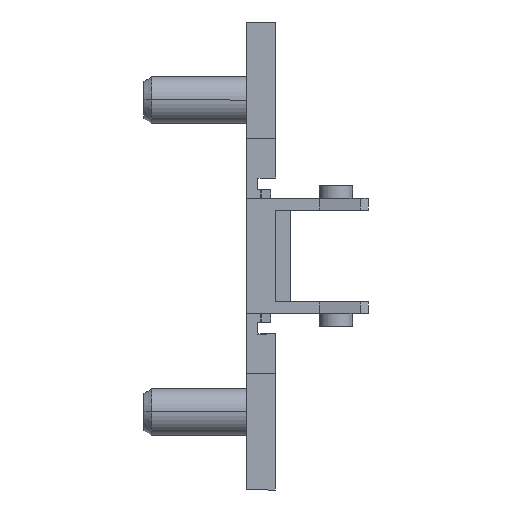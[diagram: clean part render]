
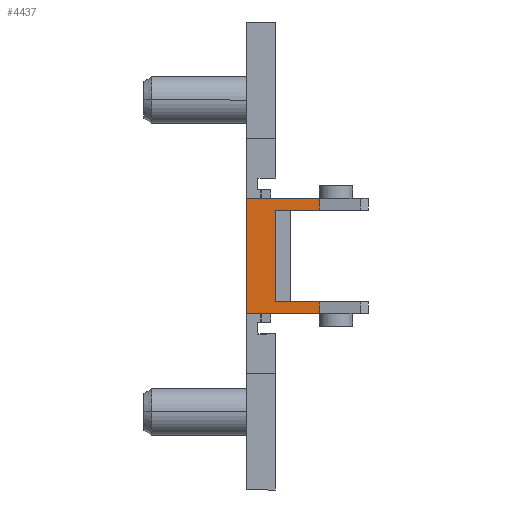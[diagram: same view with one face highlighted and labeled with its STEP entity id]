
A CAD part, front view. The second image highlights one B-rep face of the part: STEP entity #4437.
In plain terms, the highlighted planar face has unit normal (0, -1, 0).
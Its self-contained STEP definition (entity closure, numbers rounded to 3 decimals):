
#263 = CARTESIAN_POINT ( 'NONE',  ( 10.5, -25.55, 5.9 ) ) ;
#305 = CARTESIAN_POINT ( 'NONE',  ( 10.5, -25.55, -5.9 ) ) ;
#335 = DIRECTION ( 'NONE',  ( -1., 0., 0. ) ) ;
#419 = DIRECTION ( 'NONE',  ( 0., 0., -1. ) ) ;
#446 = EDGE_CURVE ( 'NONE', #3104, #3760, #1832, .T. ) ;
#595 = EDGE_CURVE ( 'NONE', #3104, #3034, #2641, .T. ) ;
#677 = CARTESIAN_POINT ( 'NONE',  ( 5.523, -25.55, 4.7 ) ) ;
#770 = LINE ( 'NONE', #4125, #3010 ) ;
#886 = VECTOR ( 'NONE', #419, 1000. ) ;
#911 = ORIENTED_EDGE ( 'NONE', *, *, #2178, .F. ) ;
#946 = LINE ( 'NONE', #2022, #3778 ) ;
#1057 = DIRECTION ( 'NONE',  ( -1., 0., 0. ) ) ;
#1087 = PLANE ( 'NONE',  #3208 ) ;
#1144 = LINE ( 'NONE', #1777, #2875 ) ;
#1147 = CARTESIAN_POINT ( 'NONE',  ( 5.523, -25.55, -5.9 ) ) ;
#1353 = DIRECTION ( 'NONE',  ( 1., 0., 0. ) ) ;
#1465 = DIRECTION ( 'NONE',  ( 0., 0., -1. ) ) ;
#1476 = VERTEX_POINT ( 'NONE', #2044 ) ;
#1484 = EDGE_CURVE ( 'NONE', #1476, #4537, #770, .T. ) ;
#1777 = CARTESIAN_POINT ( 'NONE',  ( 1., -25.55, -5.9 ) ) ;
#1807 = CARTESIAN_POINT ( 'NONE',  ( -2., -25.55, 5.9 ) ) ;
#1832 = LINE ( 'NONE', #263, #3739 ) ;
#2001 = CARTESIAN_POINT ( 'NONE',  ( 1., -25.55, -4.7 ) ) ;
#2017 = EDGE_CURVE ( 'NONE', #3760, #1476, #2525, .T. ) ;
#2020 = VECTOR ( 'NONE', #4240, 1000. ) ;
#2022 = CARTESIAN_POINT ( 'NONE',  ( 5.523, -25.55, 67.733 ) ) ;
#2044 = CARTESIAN_POINT ( 'NONE',  ( -2., -25.55, -5.9 ) ) ;
#2128 = LINE ( 'NONE', #3903, #2020 ) ;
#2171 = DIRECTION ( 'NONE',  ( 0., 0., -1. ) ) ;
#2178 = EDGE_CURVE ( 'NONE', #3461, #4537, #946, .T. ) ;
#2341 = FACE_OUTER_BOUND ( 'NONE', #2987, .T. ) ;
#2417 = ORIENTED_EDGE ( 'NONE', *, *, #3085, .F. ) ;
#2477 = DIRECTION ( 'NONE',  ( 0., 0., -1. ) ) ;
#2525 = LINE ( 'NONE', #3191, #886 ) ;
#2641 = LINE ( 'NONE', #2848, #2856 ) ;
#2686 = VECTOR ( 'NONE', #3757, 1000. ) ;
#2754 = CARTESIAN_POINT ( 'NONE',  ( 1., -25.55, 4.7 ) ) ;
#2835 = LINE ( 'NONE', #4542, #2686 ) ;
#2848 = CARTESIAN_POINT ( 'NONE',  ( 5.523, -25.55, 67.733 ) ) ;
#2856 = VECTOR ( 'NONE', #1465, 1000. ) ;
#2875 = VECTOR ( 'NONE', #2171, 1000. ) ;
#2987 = EDGE_LOOP ( 'NONE', ( #3753, #3703, #3630, #4246, #3857, #4261, #911, #2417 ) ) ;
#3010 = VECTOR ( 'NONE', #1353, 1000. ) ;
#3034 = VERTEX_POINT ( 'NONE', #677 ) ;
#3085 = EDGE_CURVE ( 'NONE', #4320, #3461, #2835, .T. ) ;
#3104 = VERTEX_POINT ( 'NONE', #3773 ) ;
#3191 = CARTESIAN_POINT ( 'NONE',  ( -2., -25.55, 15.37 ) ) ;
#3208 = AXIS2_PLACEMENT_3D ( 'NONE', #305, #4153, #1057 ) ;
#3374 = CARTESIAN_POINT ( 'NONE',  ( 5.523, -25.55, -4.7 ) ) ;
#3404 = EDGE_CURVE ( 'NONE', #3676, #4320, #1144, .T. ) ;
#3461 = VERTEX_POINT ( 'NONE', #3374 ) ;
#3630 = ORIENTED_EDGE ( 'NONE', *, *, #595, .F. ) ;
#3676 = VERTEX_POINT ( 'NONE', #2754 ) ;
#3703 = ORIENTED_EDGE ( 'NONE', *, *, #4491, .T. ) ;
#3739 = VECTOR ( 'NONE', #335, 1000. ) ;
#3753 = ORIENTED_EDGE ( 'NONE', *, *, #3404, .F. ) ;
#3757 = DIRECTION ( 'NONE',  ( 1., 0., 0. ) ) ;
#3760 = VERTEX_POINT ( 'NONE', #1807 ) ;
#3773 = CARTESIAN_POINT ( 'NONE',  ( 5.523, -25.55, 5.9 ) ) ;
#3778 = VECTOR ( 'NONE', #2477, 1000. ) ;
#3857 = ORIENTED_EDGE ( 'NONE', *, *, #2017, .T. ) ;
#3903 = CARTESIAN_POINT ( 'NONE',  ( 10.5, -25.55, 4.7 ) ) ;
#4125 = CARTESIAN_POINT ( 'NONE',  ( -0.5, -25.55, -5.9 ) ) ;
#4153 = DIRECTION ( 'NONE',  ( 0., -1., 0. ) ) ;
#4240 = DIRECTION ( 'NONE',  ( 1., 0., 0. ) ) ;
#4246 = ORIENTED_EDGE ( 'NONE', *, *, #446, .T. ) ;
#4261 = ORIENTED_EDGE ( 'NONE', *, *, #1484, .T. ) ;
#4320 = VERTEX_POINT ( 'NONE', #2001 ) ;
#4437 = ADVANCED_FACE ( 'NONE', ( #2341 ), #1087, .T. ) ;
#4491 = EDGE_CURVE ( 'NONE', #3676, #3034, #2128, .T. ) ;
#4537 = VERTEX_POINT ( 'NONE', #1147 ) ;
#4542 = CARTESIAN_POINT ( 'NONE',  ( 10.5, -25.55, -4.7 ) ) ;
